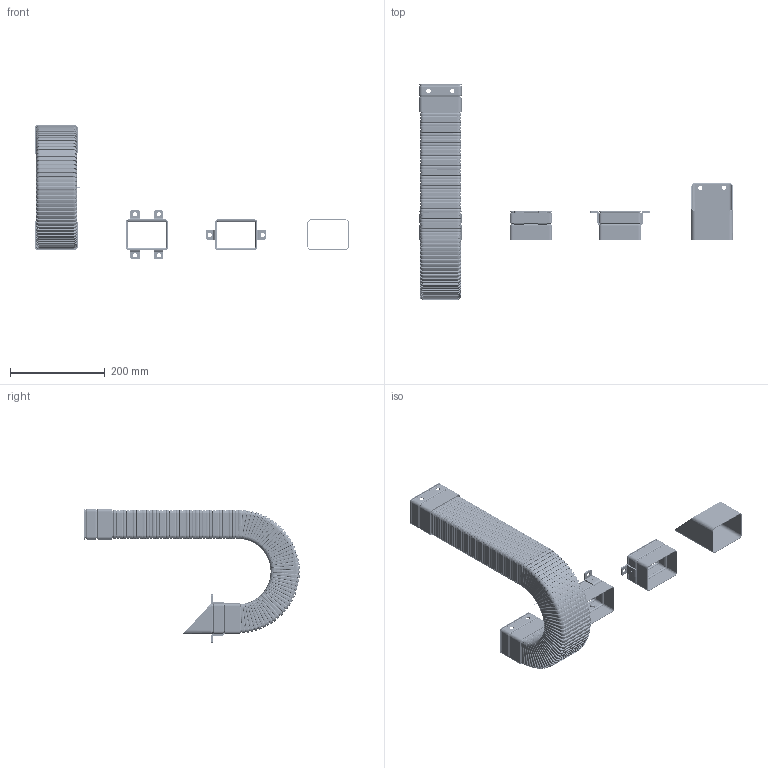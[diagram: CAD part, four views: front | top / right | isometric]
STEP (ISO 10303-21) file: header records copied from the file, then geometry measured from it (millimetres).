
FILE_DESCRIPTION((''),'2;1');
FILE_NAME('E:\Uebbing\PARAMETERKETTEN\SFK\SFK 22 H\SFK 22 H PARAMETRISCH.stp','2017-08-28T13:33:37',('Nutzer'),(''),'Autodesk Inventor 10','Autodesk Inventor 10','');
FILE_SCHEMA(('AUTOMOTIVE_DESIGN { 1 0 10303 214 1 1 1 1 }'));
Length unit declared in the file: millimetre
Products named in the file (11): SFK 22 H PARAMETRISCH; Achse; SFK 22 H Rippe; SFK 22 H Anschluss A; Anschlusswinkel; Imbusschraube M6x5 Senkkopf; Rändelmutter M6 flach; SFK 22 H Normalanschluss; SFK 22 H Anschluss B; SFK 22 H Schrägflanschanschluss
Assembly tree (109 placements, depth 3):
  SFK 22 H PARAMETRISCH
    Achse
    SFK 22 H Rippe  x83
    SFK 22 H Anschluss A
      Anschlusswinkel  x4
      Imbusschraube M6x5 Senkkopf  x4
      Rändelmutter M6 flach  x4
      SFK 22 H Normalanschluss
    SFK 22 H Anschluss B
      Anschlusswinkel  x2
      Rändelmutter M6 flach  x2
      Imbusschraube M6x5 Senkkopf  x2
      SFK 22 H Anschluss B
    SFK 22 H Schrägflanschanschluss
    SFK 22 H Normalanschluss  x2
Bounding box: 664.12 x 456.84 x 284 mm (x, y, z)
Volume: 406017.2 mm3; surface area: 928584.9 mm2
Topology: 107 solids, 107 shells, 10537 faces, 23242 edges, 13101 vertices
Faces by surface type: cylinder 4991, plane 2688, torus 1414, bspline 1404, cone 40
Full cylindrical faces by diameter (mm): 1 x1, 6 x12, 6.5 x6, 9 x22, 9.2 x6, 11 x6, 12 x6
Entity records: 16339 total; most frequent: CARTESIAN_POINT 4454, DIRECTION 2714, ORIENTED_EDGE 2116, AXIS2_PLACEMENT_3D 1089, EDGE_CURVE 1058, VERTEX_POINT 606, EDGE_LOOP 556, VECTOR 536
